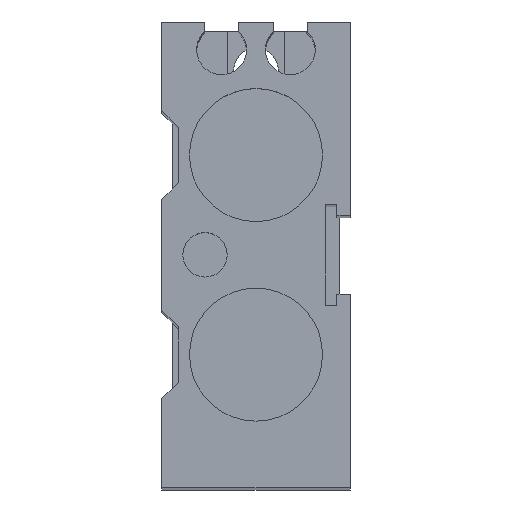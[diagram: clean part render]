
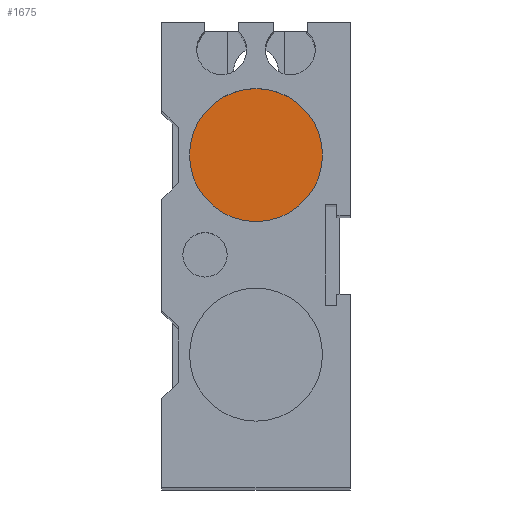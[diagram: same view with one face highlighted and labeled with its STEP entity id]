
A CAD part, top view. The second image highlights one B-rep face of the part: STEP entity #1675.
In plain terms, the highlighted planar face has unit normal (0, 0, 1).
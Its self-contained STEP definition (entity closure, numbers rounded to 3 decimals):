
#1644=CARTESIAN_POINT('',(6.,9.0,208.0));
#1645=VERTEX_POINT('',#1644);
#1646=CARTESIAN_POINT('',(0.,9.0,208.0));
#1647=DIRECTION('',(0.0,0.0,1.0));
#1648=DIRECTION('',(-1.0,0.0,0.0));
#1649=AXIS2_PLACEMENT_3D('',#1646,#1647,#1648);
#1650=CIRCLE('',#1649,6.);
#1651=EDGE_CURVE('',#1645,#1645,#1650,.T.);
#1667=CARTESIAN_POINT('',(0.,9.0,208.0));
#1668=DIRECTION('',(0.0,0.0,-1.0));
#1669=DIRECTION('',(-1.0,0.0,0.0));
#1670=AXIS2_PLACEMENT_3D('',#1667,#1668,#1669);
#1671=PLANE('',#1670);
#1672=ORIENTED_EDGE('',*,*,#1651,.T.);
#1673=EDGE_LOOP('',(#1672));
#1674=FACE_OUTER_BOUND('',#1673,.T.);
#1675=ADVANCED_FACE('',(#1674),#1671,.F.);
